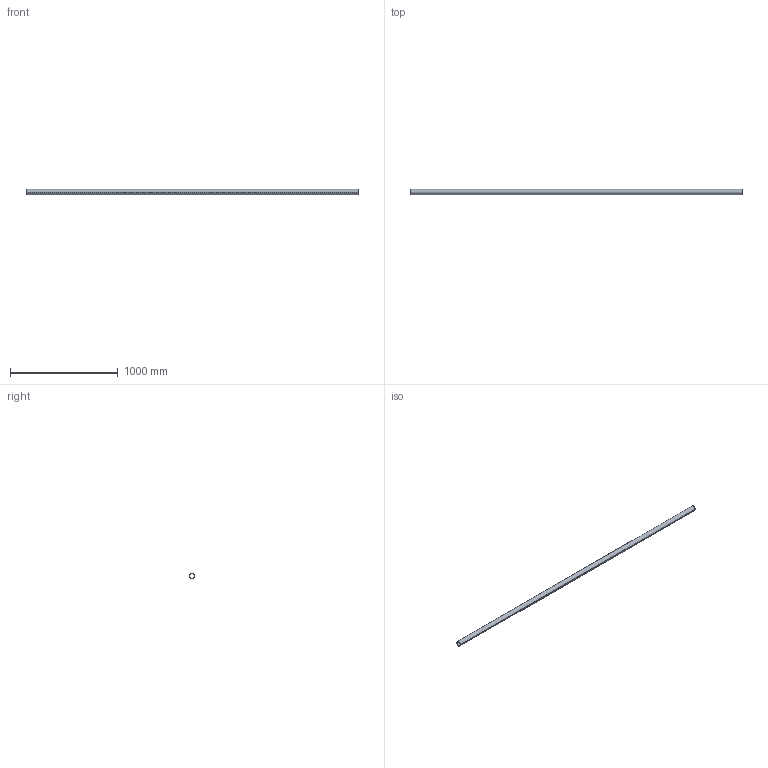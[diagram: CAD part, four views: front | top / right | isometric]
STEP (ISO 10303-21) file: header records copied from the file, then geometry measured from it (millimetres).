
FILE_DESCRIPTION (( 'STEP AP214' ), '1' );
FILE_NAME ('CCJ029-REP.209 - MAIN COURANTE PLANCHER INFERIEUR C1-C2.STEP', '2024-01-10T14:54:54', ( '' ), ( '' ), 'SwSTEP 2.0', 'SolidWorks 2021', '' );
FILE_SCHEMA (( 'AUTOMOTIVE_DESIGN' ));
Length unit declared in the file: millimetre
Products named in the file (1): CCJ029-REP.209 - MAIN COURANTE PLANCHER INFERIEUR C1-C2
Bounding box: 3075 x 48.3 x 48.3 mm (x, y, z)
Volume: 1106115.5 mm3; surface area: 885611.8 mm2
Topology: 1 solids, 1 shells, 6 faces, 12 edges, 8 vertices
Faces by surface type: cylinder 4, plane 2
Entity records: 202 total; most frequent: DIRECTION 34, CARTESIAN_POINT 27, ORIENTED_EDGE 24, AXIS2_PLACEMENT_3D 15, EDGE_CURVE 12, CIRCLE 8, EDGE_LOOP 8, VERTEX_POINT 8
